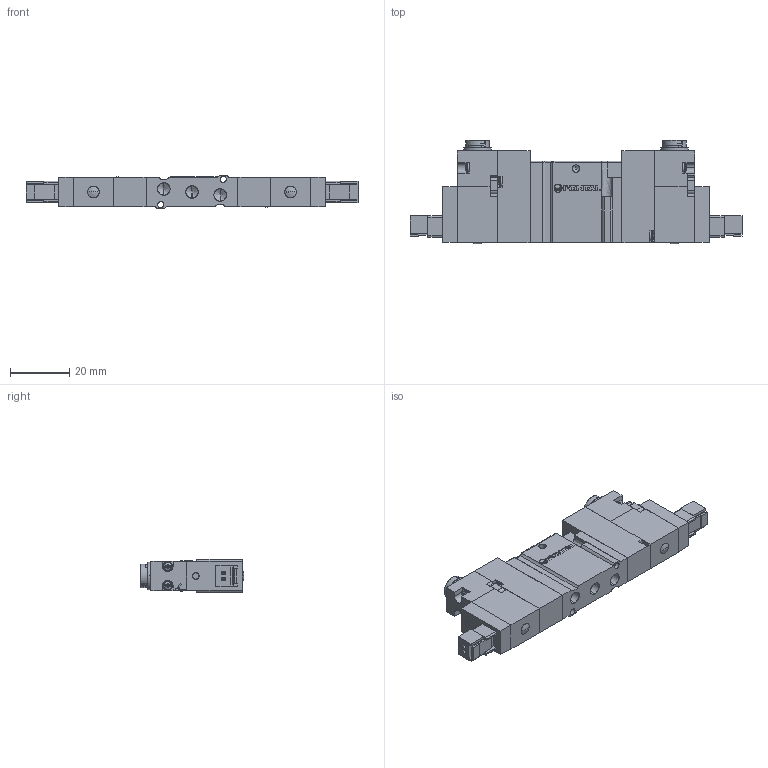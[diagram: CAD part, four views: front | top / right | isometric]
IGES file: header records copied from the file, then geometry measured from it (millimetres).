
Start section: SolidWorks IGES file using analytic representation for surfaces
Global section: file name: D:\Custom\3D繪製\ADEX\A05RS25\A05RD25#-#-#-E.IGS,1; native system: 5HSolidWorks 2014; preprocessor: SolidWorks 2014; author: Chieh_Lu; date: 150725.204329; units: millimetre
Bounding box: 112 x 35 x 11.4 mm (x, y, z)
Surface area: 16377.8 mm2 (no closed solid volume)
Topology: 0 solids, 0 shells, 1003 faces, 8314 edges, 8278 vertices
Faces by surface type: bspline 693, revolution 310
